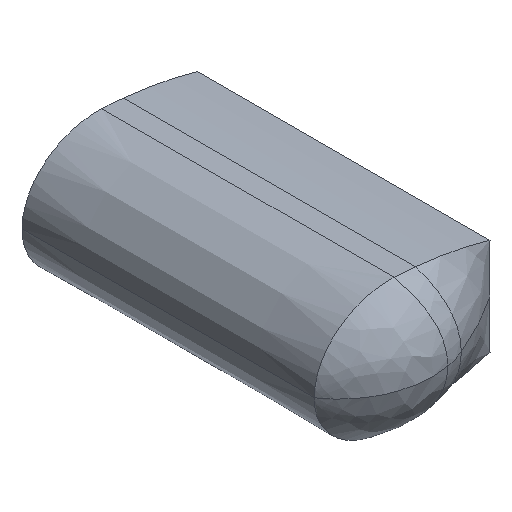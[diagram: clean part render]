
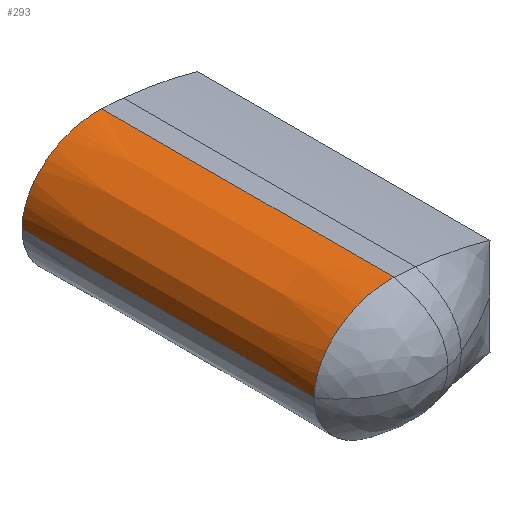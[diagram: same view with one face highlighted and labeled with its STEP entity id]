
A CAD part, isometric view. The second image highlights one B-rep face of the part: STEP entity #293.
In plain terms, the highlighted face is a extrusion surface.
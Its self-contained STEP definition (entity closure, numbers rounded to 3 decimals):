
#39=CARTESIAN_POINT('',(-3.308,5.,0.));
#45=CARTESIAN_POINT('',(-3.308,5.,0.));
#46=CARTESIAN_POINT('',(-3.308,5.,0.081));
#47=CARTESIAN_POINT('',(-3.287,5.,0.242));
#48=CARTESIAN_POINT('',(-3.166,5.,0.546));
#49=CARTESIAN_POINT('',(-2.888,5.,0.856));
#50=CARTESIAN_POINT('',(-2.437,5.,1.071));
#51=CARTESIAN_POINT('',(-2.105,5.,1.108));
#52=CARTESIAN_POINT('',(-1.941,5.,1.101));
#54=DIRECTION('',(0.,-1.,0.));
#55=VECTOR('',#54,5.);
#56=CARTESIAN_POINT('',(-1.941,5.,1.101));
#57=LINE('',#56,#55);
#58=DIRECTION('',(0.,1.,0.));
#59=VECTOR('',#58,5.);
#60=CARTESIAN_POINT('',(-3.308,0.,0.));
#61=LINE('',#60,#59);
#133=CARTESIAN_POINT('',(-3.308,0.,0.));
#144=CARTESIAN_POINT('',(-3.308,0.,0.));
#145=CARTESIAN_POINT('',(-3.308,0.,0.081));
#146=CARTESIAN_POINT('',(-3.287,0.,0.242));
#147=CARTESIAN_POINT('',(-3.166,0.,0.546));
#148=CARTESIAN_POINT('',(-2.888,0.,0.856));
#149=CARTESIAN_POINT('',(-2.437,0.,1.071));
#150=CARTESIAN_POINT('',(-2.105,0.,1.108));
#151=CARTESIAN_POINT('',(-1.941,0.,1.101));
#168=VERTEX_POINT('',#39);
#169=VERTEX_POINT('',#52);
#182=VERTEX_POINT('',#133);
#183=CARTESIAN_POINT('',(-1.941,0.,1.101));
#184=VERTEX_POINT('',#183);
#272=CARTESIAN_POINT('',(-1.941,5.,1.101));
#273=CARTESIAN_POINT('',(-2.105,5.,1.108));
#274=CARTESIAN_POINT('',(-2.437,5.,1.071));
#275=CARTESIAN_POINT('',(-2.888,5.,0.856));
#276=CARTESIAN_POINT('',(-3.166,5.,0.546));
#277=CARTESIAN_POINT('',(-3.287,5.,0.242));
#278=CARTESIAN_POINT('',(-3.308,5.,0.081));
#279=CARTESIAN_POINT('',(-3.308,5.,0.));
#281=DIRECTION('',(0.,-1.,0.));
#282=VECTOR('',#281,1.);
#283=SURFACE_OF_LINEAR_EXTRUSION('',#280,#282);
#285=ORIENTED_EDGE('',*,*,#284,.T.);
#287=ORIENTED_EDGE('',*,*,#286,.T.);
#289=ORIENTED_EDGE('',*,*,#288,.F.);
#290=ORIENTED_EDGE('',*,*,#264,.T.);
#291=EDGE_LOOP('',(#285,#287,#289,#290));
#292=FACE_OUTER_BOUND('',#291,.F.);
#293=ADVANCED_FACE('',(#292),#283,.T.);
#53=B_SPLINE_CURVE_WITH_KNOTS('',3,(#45,#46,#47,#48,#49,#50,#51,#52),
.UNSPECIFIED.,.F.,.F.,(4,1,1,1,1,4),(0.,0.125,0.25,0.5,0.75,1.),
.UNSPECIFIED.);
#152=B_SPLINE_CURVE_WITH_KNOTS('',3,(#144,#145,#146,#147,#148,#149,#150,#151),
.UNSPECIFIED.,.F.,.F.,(4,1,1,1,1,4),(0.,0.125,0.25,0.5,
0.75,1.),.UNSPECIFIED.);
#264=EDGE_CURVE('',#182,#168,#61,.T.);
#280=B_SPLINE_CURVE_WITH_KNOTS('',3,(#272,#273,#274,#275,#276,#277,#278,#279),
.UNSPECIFIED.,.F.,.F.,(4,1,1,1,1,4),(0.,0.25,0.5,0.75,0.875,1.),
.UNSPECIFIED.);
#284=EDGE_CURVE('',#168,#169,#53,.T.);
#286=EDGE_CURVE('',#169,#184,#57,.T.);
#288=EDGE_CURVE('',#182,#184,#152,.T.);
